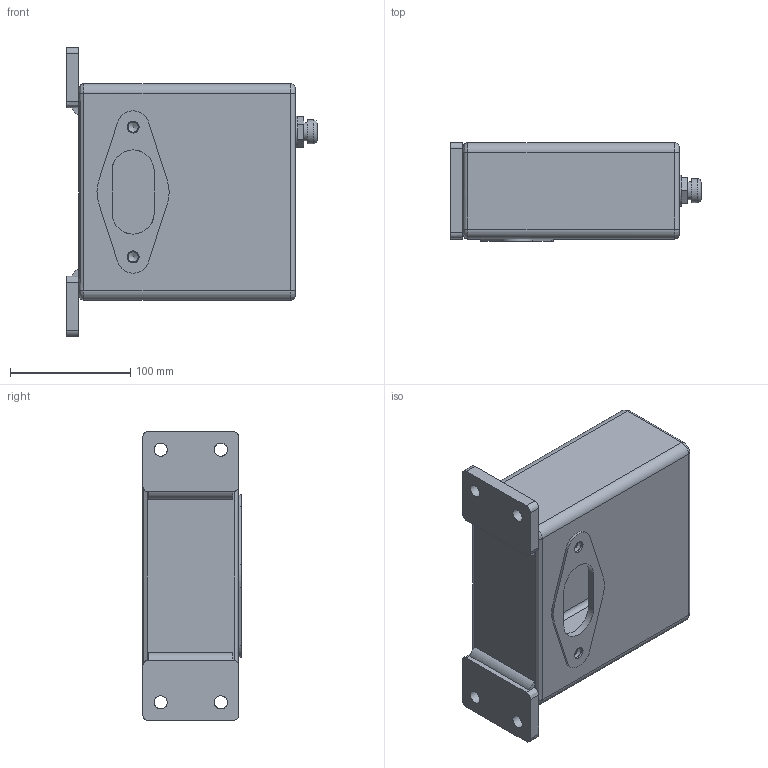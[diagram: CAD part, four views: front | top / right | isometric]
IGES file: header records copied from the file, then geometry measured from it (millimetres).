
Global section: file name: No Iges File Name specified; native system: Autodesk Inventor 2013; preprocessor: AutoDesk Inventor Iges Exporter R2013; author: christian.scardovi; date: 20240916.163248; units: millimetre
Bounding box: 208 x 82 x 240 mm (x, y, z)
Volume: 539293.5 mm3; surface area: 243869 mm2
Topology: 1 solids, 1 shells, 152 faces, 364 edges, 226 vertices
Faces by surface type: bspline 152
